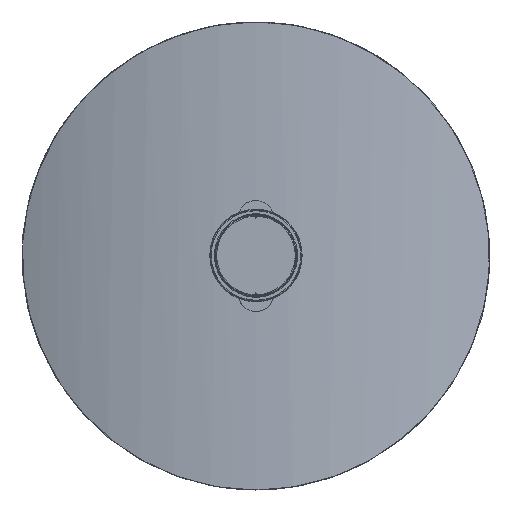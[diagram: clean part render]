
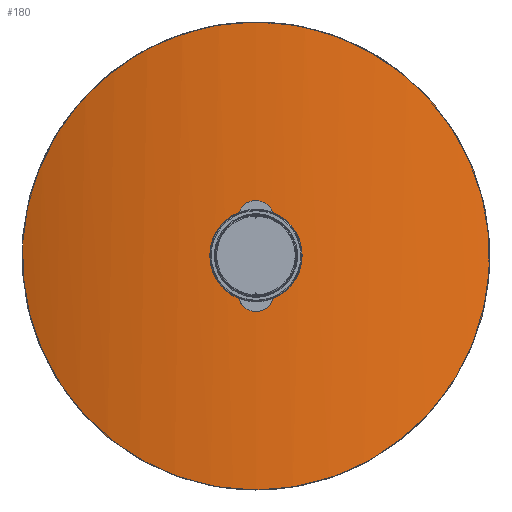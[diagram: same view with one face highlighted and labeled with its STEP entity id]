
A CAD part, top view. The second image highlights one B-rep face of the part: STEP entity #180.
In plain terms, the highlighted cylindrical face has radius 1000 mm (diameter 2000 mm), a partial arc.
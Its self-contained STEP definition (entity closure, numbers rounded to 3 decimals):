
#1=CARTESIAN_POINT('',(-0.013,-400.,
0.));
#2=CARTESIAN_POINT('',(11.679,-400.,0.));
#3=CARTESIAN_POINT('',(34.985,-398.973,-0.41));
#4=CARTESIAN_POINT('',(69.705,-394.401,-2.233));
#5=CARTESIAN_POINT('',(104.035,-386.766,-5.232));
#6=CARTESIAN_POINT('',(137.764,-376.091,-9.344));
#7=CARTESIAN_POINT('',(171.042,-362.193,-14.55));
#8=CARTESIAN_POINT('',(203.258,-345.156,-20.701));
#9=CARTESIAN_POINT('',(234.05,-325.074,-27.615));
#10=CARTESIAN_POINT('',(263.094,-302.062,-35.088));
#11=CARTESIAN_POINT('',(289.741,-276.589,-42.774));
#12=CARTESIAN_POINT('',(314.01,-248.669,-50.48));
#13=CARTESIAN_POINT('',(335.527,-218.802,-57.892));
#14=CARTESIAN_POINT('',(354.044,-187.348,-64.715));
#15=CARTESIAN_POINT('',(369.537,-154.515,-70.746));
#16=CARTESIAN_POINT('',(381.827,-120.933,-75.744));
#17=CARTESIAN_POINT('',(391.007,-86.769,-79.601));
#18=CARTESIAN_POINT('',(397.076,-52.257,-82.211));
#19=CARTESIAN_POINT('',(400.116,-17.549,-83.536));
#20=CARTESIAN_POINT('',(400.133,17.192,-83.543));
#21=CARTESIAN_POINT('',(397.129,51.873,-82.233));
#22=CARTESIAN_POINT('',(391.088,86.392,-79.634));
#23=CARTESIAN_POINT('',(381.953,120.531,-75.793));
#24=CARTESIAN_POINT('',(369.7,154.12,-70.807));
#25=CARTESIAN_POINT('',(354.322,186.803,-64.816));
#26=CARTESIAN_POINT('',(335.835,218.329,-57.997));
#27=CARTESIAN_POINT('',(314.2,248.473,-50.537));
#28=CARTESIAN_POINT('',(289.818,276.522,-42.791));
#29=CARTESIAN_POINT('',(262.979,302.165,-35.05));
#30=CARTESIAN_POINT('',(233.819,325.251,-27.552));
#31=CARTESIAN_POINT('',(202.89,345.364,-20.621));
#32=CARTESIAN_POINT('',(170.97,362.223,-14.537));
#33=CARTESIAN_POINT('',(137.902,376.03,-9.361));
#34=CARTESIAN_POINT('',(104.208,386.712,-5.247));
#35=CARTESIAN_POINT('',(69.793,394.392,-2.236));
#36=CARTESIAN_POINT('',(35.009,398.975,-0.409));
#37=CARTESIAN_POINT('',(11.699,400.,0.));
#38=CARTESIAN_POINT('',(0.013,400.,0.));
#40=CARTESIAN_POINT('',(0.013,400.,0.));
#41=CARTESIAN_POINT('',(-11.629,400.,0.));
#42=CARTESIAN_POINT('',(-34.879,398.985,-0.406));
#43=CARTESIAN_POINT('',(-69.666,394.416,-2.228));
#44=CARTESIAN_POINT('',(-104.141,386.733,-5.241));
#45=CARTESIAN_POINT('',(-137.922,376.026,-9.366));
#46=CARTESIAN_POINT('',(-171.077,362.175,-14.559));
#47=CARTESIAN_POINT('',(-203.058,345.268,-20.659));
#48=CARTESIAN_POINT('',(-234.,325.119,-27.601));
#49=CARTESIAN_POINT('',(-263.106,302.051,-35.09));
#50=CARTESIAN_POINT('',(-289.886,276.448,-42.817));
#51=CARTESIAN_POINT('',(-314.228,248.435,-50.552));
#52=CARTESIAN_POINT('',(-335.837,218.325,-58.002));
#53=CARTESIAN_POINT('',(-354.311,186.824,-64.816));
#54=CARTESIAN_POINT('',(-369.691,154.143,-70.808));
#55=CARTESIAN_POINT('',(-381.958,120.52,-75.798));
#56=CARTESIAN_POINT('',(-391.102,86.337,-79.642));
#57=CARTESIAN_POINT('',(-397.14,51.789,-82.239));
#58=CARTESIAN_POINT('',(-400.135,17.123,-83.544));
#59=CARTESIAN_POINT('',(-400.114,-17.593,-83.534));
#60=CARTESIAN_POINT('',(-397.072,-52.297,-82.208));
#61=CARTESIAN_POINT('',(-390.989,-86.859,-79.591));
#62=CARTESIAN_POINT('',(-381.777,-121.096,-75.72));
#63=CARTESIAN_POINT('',(-369.445,-154.739,-70.706));
#64=CARTESIAN_POINT('',(-353.915,-187.593,-64.661));
#65=CARTESIAN_POINT('',(-335.372,-219.039,-57.832));
#66=CARTESIAN_POINT('',(-313.848,-248.871,-50.422));
#67=CARTESIAN_POINT('',(-289.586,-276.752,-42.722));
#68=CARTESIAN_POINT('',(-262.924,-302.21,-35.036));
#69=CARTESIAN_POINT('',(-233.872,-325.2,-27.567));
#70=CARTESIAN_POINT('',(-203.156,-345.212,-20.676));
#71=CARTESIAN_POINT('',(-171.053,-362.184,-14.549));
#72=CARTESIAN_POINT('',(-137.871,-376.05,-9.356));
#73=CARTESIAN_POINT('',(-104.159,-386.734,-5.242));
#74=CARTESIAN_POINT('',(-69.798,-394.386,-2.237));
#75=CARTESIAN_POINT('',(-35.027,-398.971,
-0.41));
#76=CARTESIAN_POINT('',(-11.709,-400.,
0.));
#77=CARTESIAN_POINT('',(-0.013,-400.,
0.));
#165=VERTEX_POINT('',#1);
#166=VERTEX_POINT('',#38);
#169=CARTESIAN_POINT('',(-0.014,-450.,-1000.));
#170=DIRECTION('',(0.,1.,0.));
#171=DIRECTION('',(0.,0.,1.));
#172=AXIS2_PLACEMENT_3D('',#169,#170,#171);
#173=CYLINDRICAL_SURFACE('',#172,1000.);
#175=ORIENTED_EDGE('',*,*,#174,.F.);
#177=ORIENTED_EDGE('',*,*,#176,.F.);
#178=EDGE_LOOP('',(#175,#177));
#179=FACE_OUTER_BOUND('',#178,.F.);
#180=ADVANCED_FACE('',(#179),#173,.T.);
#39=B_SPLINE_CURVE_WITH_KNOTS('',3,(#1,#2,#3,#4,#5,#6,#7,#8,#9,#10,#11,#12,#13,
#14,#15,#16,#17,#18,#19,#20,#21,#22,#23,#24,#25,#26,#27,#28,#29,#30,#31,#32,#33,
#34,#35,#36,#37,#38),.UNSPECIFIED.,.F.,.F.,(4,1,1,1,1,1,1,1,1,1,1,1,1,1,1,1,1,1,
1,1,1,1,1,1,1,1,1,1,1,1,1,1,1,1,1,4),(0.,0.029,0.057,
0.086,0.114,0.143,0.171,0.2,
0.229,0.257,0.286,0.314,
0.343,0.371,0.4,0.429,0.457,
0.486,0.514,0.543,0.571,0.6,
0.629,0.657,0.686,0.714,
0.743,0.771,0.8,0.829,0.857,
0.886,0.914,0.943,0.971,1.),
.UNSPECIFIED.);
#78=B_SPLINE_CURVE_WITH_KNOTS('',3,(#40,#41,#42,#43,#44,#45,#46,#47,#48,#49,#50,
#51,#52,#53,#54,#55,#56,#57,#58,#59,#60,#61,#62,#63,#64,#65,#66,#67,#68,#69,#70,
#71,#72,#73,#74,#75,#76,#77),.UNSPECIFIED.,.F.,.F.,(4,1,1,1,1,1,1,1,1,1,1,1,1,1,
1,1,1,1,1,1,1,1,1,1,1,1,1,1,1,1,1,1,1,1,1,4),(0.,0.029,
0.057,0.086,0.114,0.143,
0.171,0.2,0.229,0.257,0.286,
0.314,0.343,0.371,0.4,0.429,
0.457,0.486,0.514,0.543,
0.571,0.6,0.629,0.657,0.686,
0.714,0.743,0.771,0.8,0.829,
0.857,0.886,0.914,0.943,
0.971,1.),.UNSPECIFIED.);
#174=EDGE_CURVE('',#165,#166,#39,.T.);
#176=EDGE_CURVE('',#166,#165,#78,.T.);
